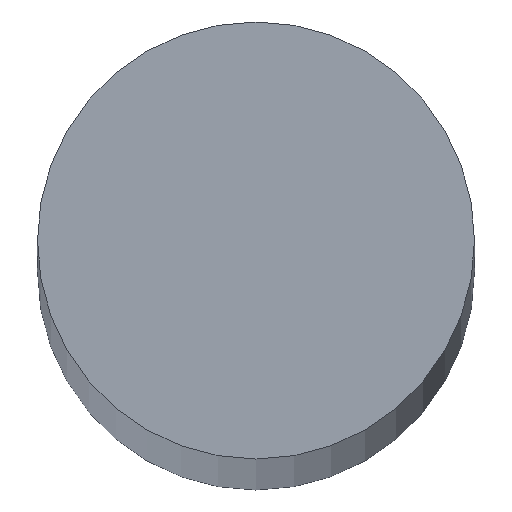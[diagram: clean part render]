
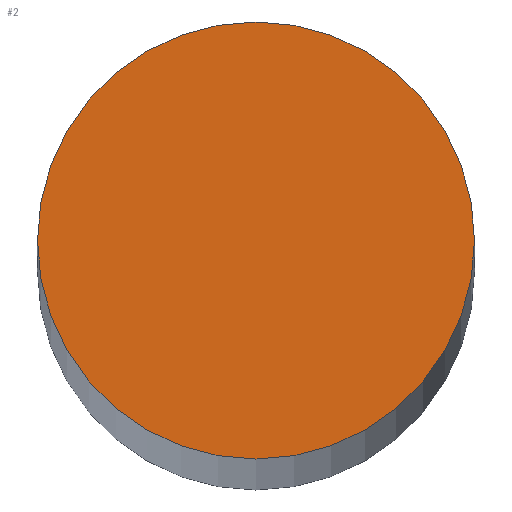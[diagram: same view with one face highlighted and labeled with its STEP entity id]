
A CAD part, top view. The second image highlights one B-rep face of the part: STEP entity #2.
In plain terms, the highlighted planar face has unit normal (0, 0, 1).
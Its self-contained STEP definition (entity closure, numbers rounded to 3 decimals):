
#2 = ADVANCED_FACE ( 'NONE', ( #81 ), #137, .T. ) ;
#7 = DIRECTION ( 'NONE',  ( 0., 0., 1. ) ) ;
#8 = DIRECTION ( 'NONE',  ( 1., 0., 0. ) ) ;
#14 = CARTESIAN_POINT ( 'NONE',  ( 0., 0., 243.5 ) ) ;
#27 = CARTESIAN_POINT ( 'NONE',  ( 0., 0., 243.5 ) ) ;
#31 = DIRECTION ( 'NONE',  ( 1., 0., 0. ) ) ;
#35 = DIRECTION ( 'NONE',  ( 0., 0., 1. ) ) ;
#36 = DIRECTION ( 'NONE',  ( 1., 0., 0. ) ) ;
#39 = EDGE_CURVE ( 'NONE', #108, #138, #87, .T. ) ;
#45 = AXIS2_PLACEMENT_3D ( 'NONE', #139, #7, #8 ) ;
#47 = AXIS2_PLACEMENT_3D ( 'NONE', #27, #35, #31 ) ;
#51 = EDGE_CURVE ( 'NONE', #138, #108, #92, .T. ) ;
#53 = AXIS2_PLACEMENT_3D ( 'NONE', #14, #140, #36 ) ;
#66 = ORIENTED_EDGE ( 'NONE', *, *, #51, .T. ) ;
#69 = ORIENTED_EDGE ( 'NONE', *, *, #39, .T. ) ;
#81 = FACE_OUTER_BOUND ( 'NONE', #83, .T. ) ;
#83 = EDGE_LOOP ( 'NONE', ( #69, #66 ) ) ;
#87 = CIRCLE ( 'NONE', #47, 6. ) ;
#92 = CIRCLE ( 'NONE', #53, 6. ) ;
#108 = VERTEX_POINT ( 'NONE', #111 ) ;
#111 = CARTESIAN_POINT ( 'NONE',  ( -6., 0., 243.5 ) ) ;
#112 = CARTESIAN_POINT ( 'NONE',  ( 6., 0., 243.5 ) ) ;
#137 = PLANE ( 'NONE',  #45 ) ;
#138 = VERTEX_POINT ( 'NONE', #112 ) ;
#139 = CARTESIAN_POINT ( 'NONE',  ( 0., 0., 243.5 ) ) ;
#140 = DIRECTION ( 'NONE',  ( 0., 0., 1. ) ) ;
